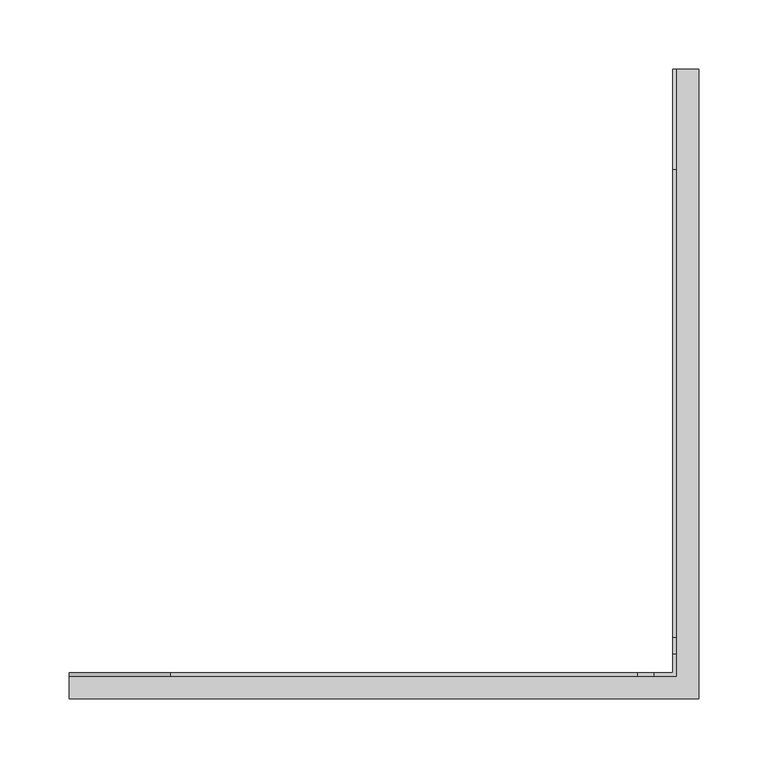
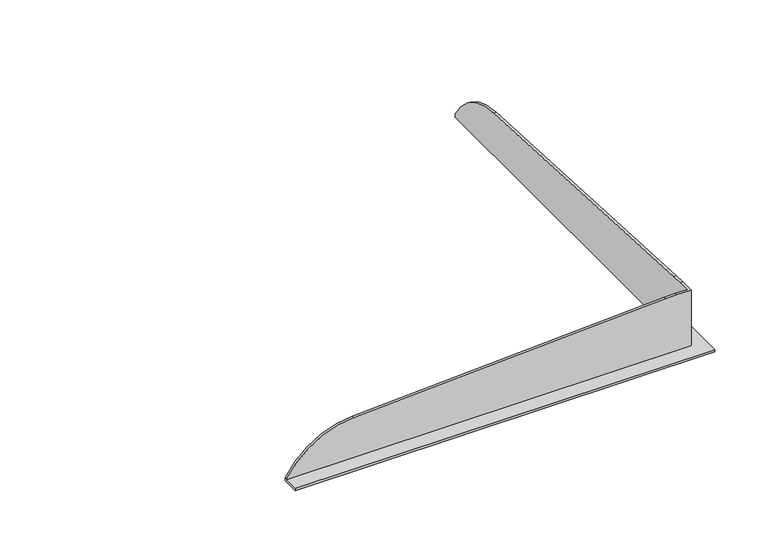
"""IFC4 building model written with IfcOpenShell, lengths in millimetres: furniture geometry, Stance_HC-Rise-Square_ Dining_Table : RTAH-4242-P."""

import ifcopenshell
import ifcopenshell.guid

model = None  # the IFC model being written
_history = None  # IfcOwnerHistory: only IFC2X3 demands one
_inside = {}  # id of a spatial element -> (the spatial element, [elements in it])
_under = {}  # id of a project, library or spatial element -> (it, [spatial elements below it])
_declared = {}  # id of a project -> (the project, [libraries it declares])
_typed = {}  # id of a type object -> (the type object, [elements of that type])
_made_of = {}  # id of a material, layer set ... -> (it, [elements and type objects made of it])


def new_model(schema):
    """Start an empty IFC model of exactly this schema.

    Asked for "IFC4X3", IfcOpenShell would pick the latest addendum, in which some entities
    have other attributes; the version numbers below select the first issue.
    IFC2X3 requires an IfcOwnerHistory on every rooted entity: one is made here for all.
    """
    global model, _history
    if schema == "IFC4X3":
        model = ifcopenshell.file(schema_version=(4, 3, 0, 0))
    else:
        model = ifcopenshell.file(schema=schema)
    _inside.clear()
    _under.clear()
    _declared.clear()
    _typed.clear()
    _made_of.clear()
    _history = None
    if model.schema == "IFC2X3":
        org = make("IfcOrganization", Name="unknown")
        user = make(
            "IfcPersonAndOrganization",
            ThePerson=make("IfcPerson", FamilyName="unknown"),
            TheOrganization=org,
        )
        app = make(
            "IfcApplication",
            ApplicationDeveloper=org,
            Version="unknown",
            ApplicationFullName="unknown",
            ApplicationIdentifier="unknown",
        )
        _history = make(
            "IfcOwnerHistory",
            OwningUser=user,
            OwningApplication=app,
            ChangeAction="ADDED",
            CreationDate=0,
        )
    return model


def make(cls, **values):
    """One entity of the class cls with the attributes given. An attribute that is None is left unset."""
    return model.create_entity(
        cls, **{name: value for name, value in values.items() if value is not None}
    )


def rooted(cls, **values):
    """An entity with a GlobalId (a new one), such as an element, a storey or a relation."""
    return make(cls, GlobalId=ifcopenshell.guid.new(), OwnerHistory=_history, **values)


def si_unit(unit_type, name, prefix=None):
    """IfcSIUnit, for example si_unit("LENGTHUNIT", "METRE", prefix="MILLI")."""
    return make("IfcSIUnit", UnitType=unit_type, Prefix=prefix, Name=name)


def assignment(units):
    """IfcUnitAssignment: the units of a project."""
    return None if units is None else make("IfcUnitAssignment", Units=units)


def point(xyz):
    """IfcCartesianPoint."""
    return None if xyz is None else make("IfcCartesianPoint", Coordinates=xyz)


def direction(xyz):
    """IfcDirection."""
    return None if xyz is None else make("IfcDirection", DirectionRatios=xyz)


def frame(location, z_axis=None, x_axis=None):
    """IfcAxis2Placement3D, a coordinate frame: its origin and axes. An axis left out is left unset."""
    return make(
        "IfcAxis2Placement3D",
        Location=point(location),
        Axis=direction(z_axis),
        RefDirection=direction(x_axis),
    )


def origin():
    """The frame at (0, 0, 0) with its axes left unset."""
    return frame((0.0, 0.0, 0.0))


def place(relative_to, where):
    """IfcLocalPlacement: puts the frame where relative to a parent placement (None: the world)."""
    return make(
        "IfcLocalPlacement", PlacementRelTo=relative_to, RelativePlacement=where
    )


def context(
    kind, dimensions, precision=None, world=None, true_north=None, identifier=None
):
    """IfcGeometricRepresentationContext, for example the 3D "Model" context."""
    return make(
        "IfcGeometricRepresentationContext",
        ContextIdentifier=identifier,
        ContextType=kind,
        CoordinateSpaceDimension=dimensions,
        Precision=precision,
        WorldCoordinateSystem=world,
        TrueNorth=true_north,
    )


def project(units=None, contexts=None):
    """IfcProject with its units and contexts."""
    return rooted(
        "IfcProject",
        Name="project",
        RepresentationContexts=contexts,
        UnitsInContext=assignment(units),
    )


def spatial(cls, under=None, at=None, **own):
    """A site, building, storey or space (cls), placed at a placement, below another one or the project."""
    s = rooted(cls, ObjectPlacement=at, **own)
    if under is not None:
        _under.setdefault(under.id(), (under, []))[1].append(s)
    return s


def circle_curve(where, radius):
    """IfcCircle in the frame where."""
    return make("IfcCircle", Position=where, Radius=radius)


def shape(context_of_items, identifier, shape_type, items):
    """IfcShapeRepresentation: the items that make up one representation, for example the "Body"."""
    return make(
        "IfcShapeRepresentation",
        ContextOfItems=context_of_items,
        RepresentationIdentifier=identifier,
        RepresentationType=shape_type,
        Items=items,
    )


def source(mapping_origin, context_of_items, identifier, shape_type, items):
    """IfcRepresentationMap: a shape defined once, which mapped items show again and again."""
    return make(
        "IfcRepresentationMap",
        MappingOrigin=mapping_origin,
        MappedRepresentation=shape(context_of_items, identifier, shape_type, items),
    )


def transform(
    local_origin,
    x_axis=None,
    y_axis=None,
    z_axis=None,
    scale=None,
    scale2=None,
    scale3=None,
    uniform=True,
):
    """IfcCartesianTransformationOperator3D, or its non-uniform kind. x_axis, y_axis, z_axis: its Axis1, 2, 3."""
    if uniform:
        return make(
            "IfcCartesianTransformationOperator3D",
            Axis1=direction(x_axis),
            Axis2=direction(y_axis),
            LocalOrigin=point(local_origin),
            Scale=scale,
            Axis3=direction(z_axis),
        )
    return make(
        "IfcCartesianTransformationOperator3DnonUniform",
        Axis1=direction(x_axis),
        Axis2=direction(y_axis),
        LocalOrigin=point(local_origin),
        Scale=scale,
        Axis3=direction(z_axis),
        Scale2=scale2,
        Scale3=scale3,
    )


def mapped(mapping_source, mapping_target):
    """IfcMappedItem: shows the shape of a source again, moved by a transform."""
    return make(
        "IfcMappedItem", MappingSource=mapping_source, MappingTarget=mapping_target
    )


def made_of(thing, what):
    """Note that an element or type object is made of a material, layer set ...; save() writes the relation."""
    if what is not None:
        _made_of.setdefault(what.id(), (what, []))[1].append(thing)
    return thing


def element(
    cls,
    number,
    at=None,
    inside=None,
    cuts=None,
    type_object=None,
    material=None,
    context=None,
    identifier="Body",
    shape_type=None,
    held_by="IfcProductDefinitionShape",
    body=None,
    shapes=None,
    **own,
):
    """One element of the class cls, such as IfcWall. Its Tag is "e" and its number.

    at: its placement. inside: the storey or other place that contains it. cuts: it is an
    opening in that element (IfcRelVoidsElement). A single representation is given by context,
    identifier, shape_type and body (its items); several are given by shapes. held_by: the class
    of the entity that holds the representations. save() writes the other relations.
    """
    e = rooted(cls, Tag="e%d" % number, ObjectPlacement=at, **own)
    if body is not None:
        shapes = [shape(context, identifier, shape_type, body)]
    if shapes is not None:
        e.Representation = make(held_by, Representations=shapes)
    if inside is not None:
        _inside.setdefault(inside.id(), (inside, []))[1].append(e)
    if cuts is not None:
        rooted(
            "IfcRelVoidsElement", RelatingBuildingElement=cuts, RelatedOpeningElement=e
        )
    if type_object is not None:
        _typed.setdefault(type_object.id(), (type_object, []))[1].append(e)
    return made_of(e, material)


def aggregate(whole, parts):
    """IfcRelAggregates: a whole, such as a stair, and the parts it consists of."""
    return rooted("IfcRelAggregates", RelatingObject=whole, RelatedObjects=parts)


def save(model, path):
    """Write the relations noted so far, then the file.

    IfcRelAggregates (storeys below a building ...), IfcRelContainedInSpatialStructure (elements
    in a storey), IfcRelDefinesByType, IfcRelAssociatesMaterial and IfcRelDeclares: one each for
    every whole, place, type object, material and project.
    """
    for whole, parts in _under.values():
        aggregate(whole, parts)
    for where, things in _inside.values():
        rooted(
            "IfcRelContainedInSpatialStructure",
            RelatedElements=things,
            RelatingStructure=where,
        )
    for kind, things in _typed.values():
        rooted("IfcRelDefinesByType", RelatedObjects=things, RelatingType=kind)
    for what, things in _made_of.values():
        rooted("IfcRelAssociatesMaterial", RelatedObjects=things, RelatingMaterial=what)
    for by, libraries in _declared.values():
        rooted("IfcRelDeclares", RelatingContext=by, RelatedDefinitions=libraries)
    model.write(path)


def plane_surface(at):
    """IfcPlane: the flat surface through the origin of the frame at, square to its z axis."""
    return make("IfcPlane", Position=at)


def cylinder_surface(at, radius):
    """IfcCylindricalSurface: all points at the distance radius from the z axis of the frame at."""
    return make("IfcCylindricalSurface", Position=at, Radius=radius)


def advanced_brep(points, edges, surfaces, faces):
    """IfcAdvancedBrep: a solid bounded by faces that lie on surfaces and meet in shared edges.

    An edge is (start, end): straight between two places in points (the first is 0);
    or (start, end, curve); or (start, end, curve, False) where it runs against its curve.
    A face is (place in surfaces, loops), or (place, loops, False) where it looks against
    its surface's normal. A loop lists edges by number (the first is 1), with a minus sign
    where the edge is run from its end to its start. The first loop is the outer one.
    """
    corners = [point(p) for p in points]
    vertices = [make("IfcVertexPoint", VertexGeometry=c) for c in corners]
    made = []
    for start, end, *more in edges:
        made.append(
            make(
                "IfcEdgeCurve",
                EdgeStart=vertices[start],
                EdgeEnd=vertices[end],
                EdgeGeometry=more[0] if more else make("IfcPolyline", Points=[corners[start], corners[end]]),
                SameSense=more[1] if len(more) > 1 else True,
            )
        )
    hull = []
    for where, loops, *sense in faces:
        bounds = []
        for j, loop in enumerate(loops):
            ring = [make("IfcOrientedEdge", EdgeElement=made[abs(k) - 1], Orientation=k > 0) for k in loop]
            bounds.append(
                make(
                    "IfcFaceOuterBound" if j == 0 else "IfcFaceBound",
                    Bound=make("IfcEdgeLoop", EdgeList=ring),
                    Orientation=True,
                )
            )
        hull.append(make("IfcAdvancedFace", Bounds=bounds, FaceSurface=surfaces[where], SameSense=sense[0] if sense else True))
    return make("IfcAdvancedBrep", Outer=make("IfcClosedShell", CfsFaces=hull))


def furniture_da098e18(model_context):
    return source(origin(), model_context, "Body", "AdvancedBrep", [
        advanced_brep(
        [(-54.4710937, 493.593262, 28.6377062), (-38.1, 493.593262, 28.6377062), (-38.1, 493.593262, 25.9588), (-57.15, 493.593262, 25.9588), (-57.15, 493.593262, 29.590471), (-54.4710937, 493.593262, 29.590471), (-57.15, 57.15, 25.9588), (-57.15, 57.15, 92.6338), (-57.15, 70.2140123, 92.6338), (-57.15, 82.1780119, 92.3205116), (-57.15, 420.6378786, 74.5825817), (-54.4710937, 54.4710937, 28.6377062), (-54.4710937, 420.6378786, 74.5825817), (-54.4710937, 82.1780119, 92.3205116), (-54.4710937, 70.2140123, 92.6338), (-54.4710937, 54.4710937, 92.6338), (-493.6110748, 54.4710938, 28.6377062), (-493.6110748, 38.1, 28.6377062), (-38.1, 38.1, 28.6377062), (-38.1, 38.1, 25.9588), (-493.6110748, 38.1, 25.9588), (-493.6110748, 57.15, 25.9588), (-493.6110748, 54.4710938, 29.5591956), (-493.6110748, 57.15, 29.5591956), (-420.6378786, 57.15, 74.5825817), (-82.1780119, 57.15, 92.3205116), (-70.2140123, 57.15, 92.6338), (-70.2140123, 54.4710937, 92.6338), (-82.1780119, 54.4710937, 92.3205116), (-420.6378786, 54.4710938, 74.5825817)],
        [
            (0, 1),
            (1, 2),
            (2, 3),
            (3, 4),
            (4, 5),
            (5, 0),
            (3, 6),
            (6, 7),
            (7, 8),
            (8, 9, circle_curve(frame((-57.15, 70.2140123, -135.9662), z_axis=(-1.0, 0.0, 0.0), x_axis=(0.0, -1.0, 0.0)), 228.6)),
            (9, 10),
            (10, 4, circle_curve(frame((-57.15, 415.9616501, -14.6451736), z_axis=(-1.0, 0.0, 0.0), x_axis=(0.0, -1.0, 0.0)), 89.3502066)),
            (11, 0),
            (5, 12, circle_curve(frame((-54.4710937, 415.9616501, -14.6451736), z_axis=(1.0, 0.0, 0.0), x_axis=(0.0, -1.0, 0.0)), 89.3502066)),
            (12, 13),
            (13, 14, circle_curve(frame((-54.4710937, 70.2140123, -135.9662), z_axis=(1.0, 0.0, 0.0), x_axis=(0.0, -1.0, 0.0)), 228.6)),
            (14, 15),
            (15, 11),
            (11, 16),
            (16, 17),
            (17, 18),
            (18, 1),
            (18, 19),
            (19, 2),
            (19, 20),
            (20, 21),
            (21, 6),
            (16, 22),
            (22, 23),
            (23, 21),
            (20, 17),
            (23, 24, circle_curve(frame((-415.9616501, 57.15, -14.6451736), z_axis=(0.0, 1.0, 0.0), x_axis=(1.0, 0.0, 0.0)), 89.3502066)),
            (24, 25),
            (25, 26, circle_curve(frame((-70.2140123, 57.15, -135.9662), z_axis=(0.0, 1.0, 0.0), x_axis=(1.0, 0.0, 0.0)), 228.6)),
            (26, 7),
            (15, 27),
            (27, 28, circle_curve(frame((-70.2140123, 54.4710937, -135.9662), z_axis=(0.0, -1.0, 0.0), x_axis=(1.0, 0.0, 0.0)), 228.6)),
            (28, 29),
            (29, 22, circle_curve(frame((-415.9616501, 54.4710938, -14.6451736), z_axis=(0.0, -1.0, 0.0), x_axis=(1.0, 0.0, 0.0)), 89.3502066)),
            (14, 8),
            (26, 27),
            (13, 9),
            (12, 10),
            (25, 28),
            (29, 24),
        ],
        [
            plane_surface(frame((-57.15, 493.593262, 0.0), z_axis=(0.0, 1.0, 0.0), x_axis=(0.0, 0.0, 1.0))),
            plane_surface(frame((-57.15, 493.593262, 25.9588), z_axis=(-1.0, 0.0, 0.0), x_axis=(0.0, -1.0, 0.0))),
            plane_surface(frame((-54.4710937, 493.593262, 95.01505), z_axis=(1.0, 0.0, 0.0), x_axis=(0.0, -1.0, 0.0))),
            plane_surface(frame((-54.4710937, 493.593262, 28.6377062), z_axis=(0.0, 0.0, 1.0), x_axis=(0.0, -1.0, 0.0))),
            plane_surface(frame((-38.1, 493.593262, 28.6377062), z_axis=(1.0, 0.0, 0.0), x_axis=(0.0, -1.0, 0.0))),
            plane_surface(frame((-38.1, 493.593262, 25.9588), z_axis=(0.0, 0.0, -1.0), x_axis=(0.0, -1.0, 0.0))),
            plane_surface(frame((-493.6110748, 57.15, 0.0), z_axis=(-1.0, 0.0, 0.0), x_axis=(0.0, 0.0, 1.0))),
            plane_surface(frame((-57.15, 57.15, 25.9588), z_axis=(0.0, 1.0, 0.0), x_axis=(-1.0, 0.0, 0.0))),
            plane_surface(frame((-54.4710937, 54.4710937, 95.01505), z_axis=(0.0, -1.0, 0.0), x_axis=(-1.0, 0.0, 0.0))),
            plane_surface(frame((-38.1, 38.1, 28.6377062), z_axis=(0.0, -1.0, 0.0), x_axis=(-1.0, 0.0, 0.0))),
            plane_surface(frame((-95.25, 70.2140123, 92.6338), z_axis=(0.0, 0.0, 1.0), x_axis=(1.0, 0.0, 0.0))),
            cylinder_surface(frame((101.5819282, 70.2140123, -135.9662), z_axis=(1.0, 0.0, 0.0), x_axis=(0.0, -1.0, 0.0)), 228.6),
            plane_surface(frame((-95.25, 420.6378786, 74.5825817), z_axis=(0.0, 0.0523359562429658, 0.9986295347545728), x_axis=(1.0, 0.0, 0.0))),
            cylinder_surface(frame((101.5819282, 415.9616501, -14.6451736), z_axis=(1.0, 0.0, 0.0), x_axis=(0.0, -1.0, 0.0)), 89.3502066),
            cylinder_surface(frame((-70.2140123, 101.5819282, -135.9662), z_axis=(0.0, 1.0, 0.0), x_axis=(1.0, 0.0, 0.0)), 228.6),
            cylinder_surface(frame((-415.9616501, 101.5819282, -14.6451736), z_axis=(0.0, 1.0, 0.0), x_axis=(1.0, 0.0, 0.0)), 89.3502066),
            plane_surface(frame((-420.6378786, -95.25, 74.5825817), z_axis=(-0.052335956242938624, 0.0, 0.9986295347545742), x_axis=(0.0, 1.0, 0.0))),
        ],
        [
            (0, [[1, 2, 3, 4, 5, 6]]),
            (1, [[7, 8, 9, 10, 11, 12, -4]]),
            (2, [[13, -6, 14, 15, 16, 17, 18]]),
            (3, [[-1, -13, 19, 20, 21, 22]]),
            (4, [[-2, -22, 23, 24]]),
            (5, [[-3, -24, 25, 26, 27, -7]]),
            (6, [[-20, 28, 29, 30, -26, 31]]),
            (7, [[-27, -30, 32, 33, 34, 35, -8]]),
            (8, [[-19, -18, 36, 37, 38, 39, -28]]),
            (9, [[-21, -31, -25, -23]]),
            (10, [[40, -9, -35, 41, -36, -17]]),
            (11, [[-40, -16, 42, -10]]),
            (12, [[-42, -15, 43, -11]]),
            (13, [[-43, -14, -5, -12]]),
            (14, [[44, -37, -41, -34]]),
            (15, [[45, -32, -29, -39]]),
            (16, [[-44, -33, -45, -38]]),
        ],
    ),
    ])


if __name__ == "__main__":
    model = new_model("IFC4")
    model_context = context("Model", 3, world=origin())
    ifc_project = project(units=[si_unit("LENGTHUNIT", "METRE", prefix="MILLI")], contexts=[model_context])
    site = spatial("IfcSite", under=ifc_project)
    building = spatial("IfcBuilding", under=site)
    placement = place(None, origin())
    furniture_shape = furniture_da098e18(model_context)
    element("IfcFurniture", 1, ObjectType="Stance_HC-Rise-Square_ Dining_Table : RTAH-4242-P", at=placement, inside=building, context=model_context, shape_type="MappedRepresentation", body=[
        mapped(furniture_shape, transform((0.0, 0.0, 0.0), x_axis=(1.0, 0.0, 0.0), y_axis=(0.0, 1.0, 0.0), z_axis=(0.0, 0.0, 1.0))),
    ])
    save(model, "model.ifc")
